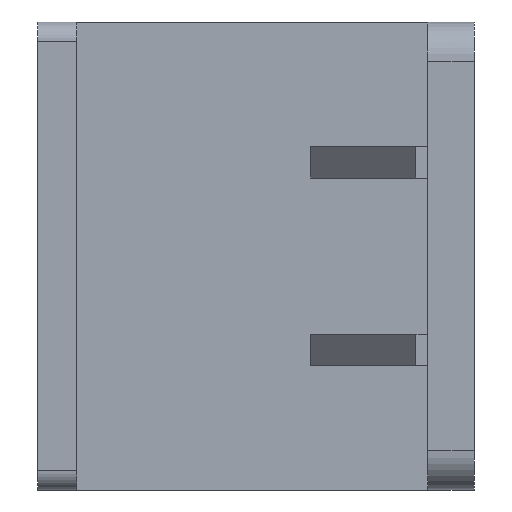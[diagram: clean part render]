
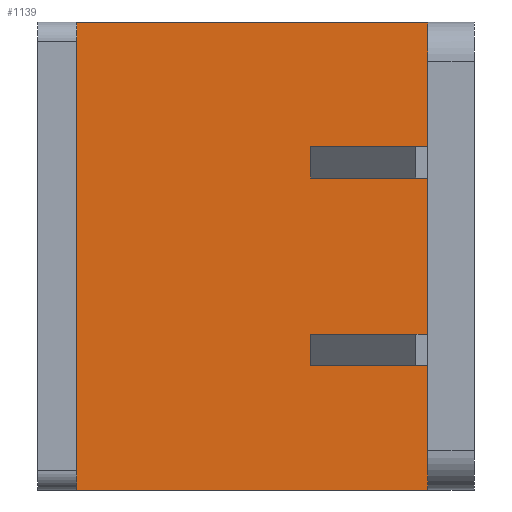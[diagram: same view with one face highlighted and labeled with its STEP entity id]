
A CAD part, left-side view. The second image highlights one B-rep face of the part: STEP entity #1139.
In plain terms, the highlighted planar face has unit normal (-1, 0, 0).
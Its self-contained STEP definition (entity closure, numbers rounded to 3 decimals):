
#32 = ORIENTED_EDGE ( 'NONE', *, *, #1993, .F. ) ;
#64 = DIRECTION ( 'NONE',  ( 0., 0., -1. ) ) ;
#116 = ORIENTED_EDGE ( 'NONE', *, *, #697, .T. ) ;
#128 = CARTESIAN_POINT ( 'NONE',  ( -5., -95., 60. ) ) ;
#182 = LINE ( 'NONE', #128, #490 ) ;
#250 = VERTEX_POINT ( 'NONE', #1916 ) ;
#490 = VECTOR ( 'NONE', #2175, 1000. ) ;
#502 = ORIENTED_EDGE ( 'NONE', *, *, #2183, .F. ) ;
#567 = VERTEX_POINT ( 'NONE', #1450 ) ;
#632 = AXIS2_PLACEMENT_3D ( 'NONE', #2805, #2807, #1842 ) ;
#697 = EDGE_CURVE ( 'NONE', #567, #1773, #2197, .T. ) ;
#762 = CARTESIAN_POINT ( 'NONE',  ( -5., -5., 60. ) ) ;
#778 = VECTOR ( 'NONE', #2599, 1000. ) ;
#984 = EDGE_LOOP ( 'NONE', ( #2751, #32, #502, #116 ) ) ;
#1090 = CARTESIAN_POINT ( 'NONE',  ( -5., -95., 60. ) ) ;
#1094 = DIRECTION ( 'NONE',  ( 0., 1., 0. ) ) ;
#1110 = EDGE_CURVE ( 'NONE', #1773, #250, #1655, .T. ) ;
#1139 = ADVANCED_FACE ( 'NONE', ( #1474 ), #2947, .F. ) ;
#1270 = LINE ( 'NONE', #1578, #778 ) ;
#1412 = CARTESIAN_POINT ( 'NONE',  ( -5., -95., -60. ) ) ;
#1450 = CARTESIAN_POINT ( 'NONE',  ( -5., -95., 60. ) ) ;
#1474 = FACE_OUTER_BOUND ( 'NONE', #984, .T. ) ;
#1561 = VECTOR ( 'NONE', #64, 1000. ) ;
#1578 = CARTESIAN_POINT ( 'NONE',  ( -5., -95., -60. ) ) ;
#1655 = LINE ( 'NONE', #3000, #1561 ) ;
#1773 = VERTEX_POINT ( 'NONE', #762 ) ;
#1842 = DIRECTION ( 'NONE',  ( 0., 0., -1. ) ) ;
#1916 = CARTESIAN_POINT ( 'NONE',  ( -5., -5., -60. ) ) ;
#1917 = VERTEX_POINT ( 'NONE', #1412 ) ;
#1993 = EDGE_CURVE ( 'NONE', #1917, #250, #1270, .T. ) ;
#2125 = VECTOR ( 'NONE', #1094, 1000. ) ;
#2175 = DIRECTION ( 'NONE',  ( 0., 0., -1. ) ) ;
#2183 = EDGE_CURVE ( 'NONE', #567, #1917, #182, .T. ) ;
#2197 = LINE ( 'NONE', #1090, #2125 ) ;
#2599 = DIRECTION ( 'NONE',  ( 0., 1., 0. ) ) ;
#2751 = ORIENTED_EDGE ( 'NONE', *, *, #1110, .T. ) ;
#2805 = CARTESIAN_POINT ( 'NONE',  ( -5., -95., 60. ) ) ;
#2807 = DIRECTION ( 'NONE',  ( 1., 0., 0. ) ) ;
#2947 = PLANE ( 'NONE',  #632 ) ;
#3000 = CARTESIAN_POINT ( 'NONE',  ( -5., -5., 60. ) ) ;
